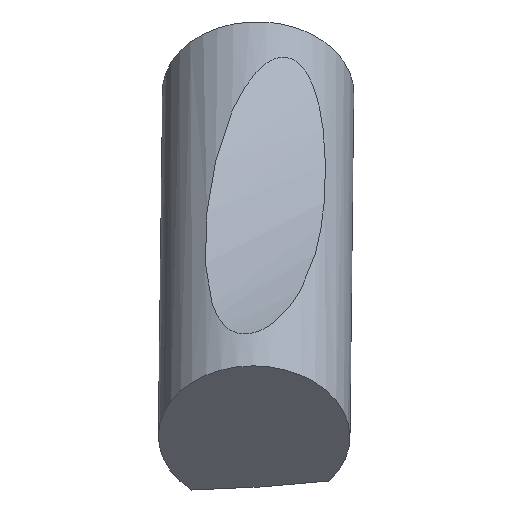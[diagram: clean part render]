
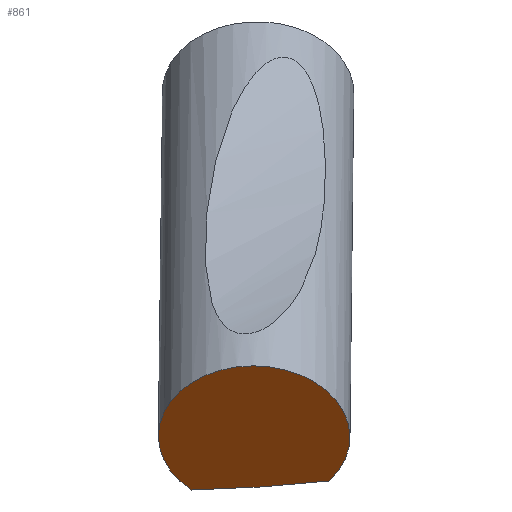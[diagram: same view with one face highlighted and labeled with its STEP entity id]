
A CAD part, isometric view. The second image highlights one B-rep face of the part: STEP entity #861.
In plain terms, the highlighted planar face has unit normal (-0.707, -0.696, -0.123).
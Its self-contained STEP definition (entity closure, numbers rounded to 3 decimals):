
#33 = CYLINDRICAL_SURFACE('',#34,4.5);
#34 = AXIS2_PLACEMENT_3D('',#35,#36,#37);
#35 = CARTESIAN_POINT('',(-87.825,77.784,
    23.361));
#36 = DIRECTION('',(-0.707,-0.696,-0.123));
#37 = DIRECTION('',(0.702,-0.712,0.));
#146 = CYLINDRICAL_SURFACE('',#147,30.);
#147 = AXIS2_PLACEMENT_3D('',#148,#149,#150);
#148 = CARTESIAN_POINT('',(-81.,65.,47.));
#149 = DIRECTION('',(-1.,0.,0.));
#150 = DIRECTION('',(0.,0.,-1.));
#181 = VERTEX_POINT('',#182);
#182 = CARTESIAN_POINT('',(-106.566,63.465,17.039)
  );
#202 = EDGE_CURVE('',#203,#181,#205,.T.);
#203 = VERTEX_POINT('',#204);
#204 = CARTESIAN_POINT('',(-102.072,58.794,
    17.649));
#205 = SURFACE_CURVE('',#206,(#211,#218),.PCURVE_S1.);
#206 = CIRCLE('',#207,4.5);
#207 = AXIS2_PLACEMENT_3D('',#208,#209,#210);
#208 = CARTESIAN_POINT('',(-104.795,61.072,
    20.414));
#209 = DIRECTION('',(-0.707,-0.696,-0.123));
#210 = DIRECTION('',(0.702,-0.712,0.)
  );
#211 = PCURVE('',#33,#212);
#212 = DEFINITIONAL_REPRESENTATION('',(#213),#217);
#213 = LINE('',#214,#215);
#214 = CARTESIAN_POINT('',(-6.283,24.));
#215 = VECTOR('',#216,1.);
#216 = DIRECTION('',(1.,0.));
#217 = ( GEOMETRIC_REPRESENTATION_CONTEXT(2) 
PARAMETRIC_REPRESENTATION_CONTEXT() REPRESENTATION_CONTEXT('2D SPACE',''
  ) );
#218 = PCURVE('',#219,#224);
#219 = PLANE('',#220);
#220 = AXIS2_PLACEMENT_3D('',#221,#222,#223);
#221 = CARTESIAN_POINT('',(-104.795,61.072,
    20.414));
#222 = DIRECTION('',(-0.707,-0.696,-0.123));
#223 = DIRECTION('',(0.702,-0.712,0.)
  );
#224 = DEFINITIONAL_REPRESENTATION('',(#225),#229);
#225 = CIRCLE('',#226,4.5);
#226 = AXIS2_PLACEMENT_2D('',#227,#228);
#227 = CARTESIAN_POINT('',(0.,0.));
#228 = DIRECTION('',(1.,0.));
#229 = ( GEOMETRIC_REPRESENTATION_CONTEXT(2) 
PARAMETRIC_REPRESENTATION_CONTEXT() REPRESENTATION_CONTEXT('2D SPACE',''
  ) );
#817 = EDGE_CURVE('',#181,#203,#818,.T.);
#818 = SURFACE_CURVE('',#819,(#823,#852),.PCURVE_S1.);
#819 = ( BOUNDED_CURVE() B_SPLINE_CURVE(2,(#820,#821,#822),
.UNSPECIFIED.,.F.,.F.) B_SPLINE_CURVE_WITH_KNOTS((3,3),(102.934,
111.939),.PIECEWISE_BEZIER_KNOTS.) CURVE() 
GEOMETRIC_REPRESENTATION_ITEM() RATIONAL_B_SPLINE_CURVE((1.,
0.997,1.)) REPRESENTATION_ITEM('') );
#820 = CARTESIAN_POINT('',(-106.566,63.465,
    17.039));
#821 = CARTESIAN_POINT('',(-104.263,61.105,
    17.16));
#822 = CARTESIAN_POINT('',(-102.072,58.794,
    17.649));
#823 = PCURVE('',#146,#824);
#824 = DEFINITIONAL_REPRESENTATION('',(#825),#851);
#825 = B_SPLINE_CURVE_WITH_KNOTS('',3,(#826,#827,#828,#829,#830,#831,
    #832,#833,#834,#835,#836,#837,#838,#839,#840,#841,#842,#843,#844,
    #845,#846,#847,#848,#849,#850),.UNSPECIFIED.,.F.,.F.,(4,1,1,1,1,1,1,
    1,1,1,1,1,1,1,1,1,1,1,1,1,1,1,4),(102.934,103.343,
    103.752,104.162,104.571,104.98,
    105.39,105.799,106.208,106.618,
    107.027,107.436,107.846,108.255,
    108.664,109.074,109.483,109.892,
    110.302,110.711,111.12,111.53,
    111.939),.QUASI_UNIFORM_KNOTS.);
#826 = CARTESIAN_POINT('',(0.051,25.566));
#827 = CARTESIAN_POINT('',(0.054,25.496));
#828 = CARTESIAN_POINT('',(0.058,25.357));
#829 = CARTESIAN_POINT('',(0.065,25.149));
#830 = CARTESIAN_POINT('',(0.073,24.941));
#831 = CARTESIAN_POINT('',(0.08,24.734));
#832 = CARTESIAN_POINT('',(0.087,24.526));
#833 = CARTESIAN_POINT('',(0.094,24.319));
#834 = CARTESIAN_POINT('',(0.101,24.113));
#835 = CARTESIAN_POINT('',(0.108,23.907));
#836 = CARTESIAN_POINT('',(0.115,23.701));
#837 = CARTESIAN_POINT('',(0.123,23.496));
#838 = CARTESIAN_POINT('',(0.13,23.291));
#839 = CARTESIAN_POINT('',(0.137,23.087));
#840 = CARTESIAN_POINT('',(0.144,22.883));
#841 = CARTESIAN_POINT('',(0.151,22.679));
#842 = CARTESIAN_POINT('',(0.158,22.477));
#843 = CARTESIAN_POINT('',(0.166,22.274));
#844 = CARTESIAN_POINT('',(0.173,22.072));
#845 = CARTESIAN_POINT('',(0.18,21.871));
#846 = CARTESIAN_POINT('',(0.187,21.67));
#847 = CARTESIAN_POINT('',(0.194,21.47));
#848 = CARTESIAN_POINT('',(0.201,21.271));
#849 = CARTESIAN_POINT('',(0.206,21.138));
#850 = CARTESIAN_POINT('',(0.208,21.072));
#851 = ( GEOMETRIC_REPRESENTATION_CONTEXT(2) 
PARAMETRIC_REPRESENTATION_CONTEXT() REPRESENTATION_CONTEXT('2D SPACE',''
  ) );
#852 = PCURVE('',#219,#853);
#853 = DEFINITIONAL_REPRESENTATION('',(#854),#858);
#854 = ( BOUNDED_CURVE() B_SPLINE_CURVE(2,(#855,#856,#857),
.UNSPECIFIED.,.F.,.F.) B_SPLINE_CURVE_WITH_KNOTS((3,3),(102.934,
111.939),.PIECEWISE_BEZIER_KNOTS.) CURVE() 
GEOMETRIC_REPRESENTATION_ITEM() RATIONAL_B_SPLINE_CURVE((1.,
0.997,1.)) REPRESENTATION_ITEM('') );
#855 = CARTESIAN_POINT('',(-2.947,-3.4));
#856 = CARTESIAN_POINT('',(0.349,-3.279));
#857 = CARTESIAN_POINT('',(3.534,-2.786));
#858 = ( GEOMETRIC_REPRESENTATION_CONTEXT(2) 
PARAMETRIC_REPRESENTATION_CONTEXT() REPRESENTATION_CONTEXT('2D SPACE',''
  ) );
#861 = ADVANCED_FACE('',(#862),#219,.T.);
#862 = FACE_BOUND('',#863,.T.);
#863 = EDGE_LOOP('',(#864,#865));
#864 = ORIENTED_EDGE('',*,*,#202,.T.);
#865 = ORIENTED_EDGE('',*,*,#817,.T.);
